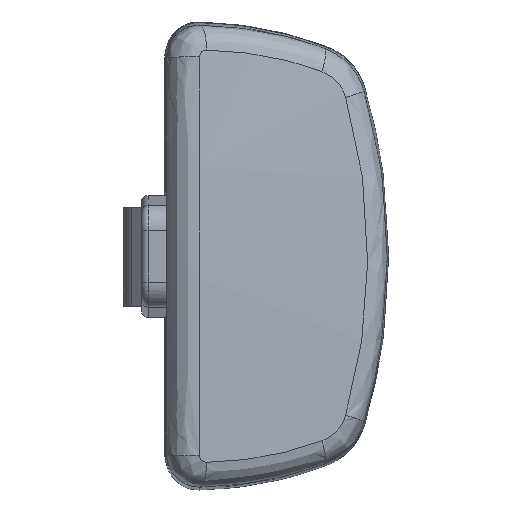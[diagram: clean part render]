
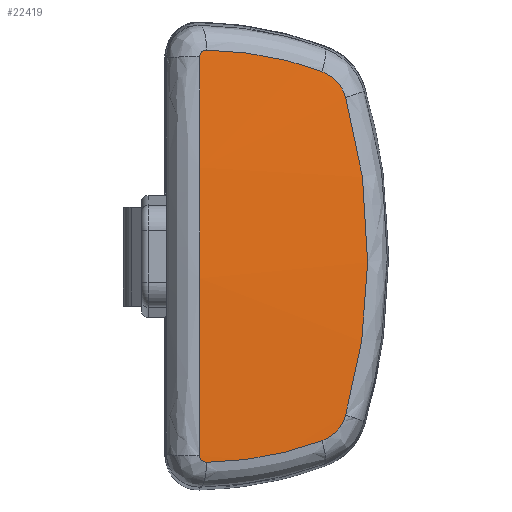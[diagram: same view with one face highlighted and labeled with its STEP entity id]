
A CAD part, top view. The second image highlights one B-rep face of the part: STEP entity #22419.
In plain terms, the highlighted face is a extrusion surface.
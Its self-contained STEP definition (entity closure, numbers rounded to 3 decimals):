
#22398=AXIS2_PLACEMENT_3D('Circle Axis2P3D',#22396,#22397,$) ;
#18948=CARTESIAN_POINT('Vertex',(19.756,-27.986,28.922)) ;
#18952=CARTESIAN_POINT('Control Point',(19.756,-27.986,28.922)) ;
#18953=CARTESIAN_POINT('Control Point',(16.978,-29.033,29.608)) ;
#18954=CARTESIAN_POINT('Control Point',(14.074,-29.881,30.336)) ;
#18955=CARTESIAN_POINT('Control Point',(11.085,-30.515,31.098)) ;
#18956=CARTESIAN_POINT('Control Point',(7.509,-31.007,32.026)) ;
#18957=CARTESIAN_POINT('Control Point',(3.929,-31.2,32.973)) ;
#18958=CARTESIAN_POINT('Control Point',(3.381,-31.223,33.118)) ;
#18959=CARTESIAN_POINT('Control Point',(2.833,-31.239,33.264)) ;
#18960=CARTESIAN_POINT('Control Point',(2.285,-31.248,33.41)) ;
#18961=CARTESIAN_POINT('Vertex',(2.285,-31.248,33.41)) ;
#19412=CARTESIAN_POINT('Vertex',(19.756,27.986,28.922)) ;
#19416=CARTESIAN_POINT('Control Point',(19.756,27.986,28.922)) ;
#19417=CARTESIAN_POINT('Control Point',(20.102,27.856,28.837)) ;
#19418=CARTESIAN_POINT('Control Point',(20.425,27.713,28.758)) ;
#19419=CARTESIAN_POINT('Control Point',(20.726,27.556,28.686)) ;
#19420=CARTESIAN_POINT('Control Point',(21.265,27.23,28.56)) ;
#19421=CARTESIAN_POINT('Control Point',(21.722,26.858,28.458)) ;
#19422=CARTESIAN_POINT('Control Point',(21.927,26.668,28.413)) ;
#19423=CARTESIAN_POINT('Control Point',(22.306,26.262,28.333)) ;
#19424=CARTESIAN_POINT('Control Point',(22.634,25.794,28.27)) ;
#19425=CARTESIAN_POINT('Control Point',(22.786,25.543,28.242)) ;
#19426=CARTESIAN_POINT('Control Point',(23.,25.132,28.205)) ;
#19427=CARTESIAN_POINT('Control Point',(23.187,24.673,28.178)) ;
#19428=CARTESIAN_POINT('Control Point',(23.247,24.511,28.17)) ;
#19429=CARTESIAN_POINT('Control Point',(23.31,24.326,28.162)) ;
#19430=CARTESIAN_POINT('Control Point',(23.369,24.135,28.155)) ;
#19431=CARTESIAN_POINT('Control Point',(23.375,24.116,28.155)) ;
#19432=CARTESIAN_POINT('Control Point',(23.38,24.098,28.154)) ;
#19433=CARTESIAN_POINT('Control Point',(23.386,24.079,28.154)) ;
#19434=CARTESIAN_POINT('Vertex',(23.386,24.079,28.154)) ;
#19541=CARTESIAN_POINT('Vertex',(1.264,30.231,33.747)) ;
#19545=CARTESIAN_POINT('Control Point',(1.264,30.231,33.747)) ;
#19546=CARTESIAN_POINT('Control Point',(1.264,30.367,33.738)) ;
#19547=CARTESIAN_POINT('Control Point',(1.286,30.502,33.724)) ;
#19548=CARTESIAN_POINT('Control Point',(1.331,30.633,33.704)) ;
#19549=CARTESIAN_POINT('Control Point',(1.487,30.92,33.645)) ;
#19550=CARTESIAN_POINT('Control Point',(1.742,31.127,33.563)) ;
#19551=CARTESIAN_POINT('Control Point',(1.915,31.21,33.512)) ;
#19552=CARTESIAN_POINT('Control Point',(2.101,31.25,33.46)) ;
#19553=CARTESIAN_POINT('Control Point',(2.285,31.248,33.41)) ;
#19554=CARTESIAN_POINT('Vertex',(2.285,31.248,33.41)) ;
#19663=CARTESIAN_POINT('Vertex',(23.386,-24.079,28.154)) ;
#19667=CARTESIAN_POINT('Control Point',(23.386,-24.079,28.154)) ;
#19668=CARTESIAN_POINT('Control Point',(23.28,-24.435,28.165)) ;
#19669=CARTESIAN_POINT('Control Point',(23.159,-24.77,28.181)) ;
#19670=CARTESIAN_POINT('Control Point',(23.025,-25.08,28.201)) ;
#19671=CARTESIAN_POINT('Control Point',(22.739,-25.642,28.249)) ;
#19672=CARTESIAN_POINT('Control Point',(22.404,-26.123,28.314)) ;
#19673=CARTESIAN_POINT('Control Point',(22.23,-26.341,28.349)) ;
#19674=CARTESIAN_POINT('Control Point',(21.854,-26.749,28.428)) ;
#19675=CARTESIAN_POINT('Control Point',(21.415,-27.109,28.526)) ;
#19676=CARTESIAN_POINT('Control Point',(21.178,-27.278,28.581)) ;
#19677=CARTESIAN_POINT('Control Point',(20.786,-27.521,28.672)) ;
#19678=CARTESIAN_POINT('Control Point',(20.349,-27.739,28.778)) ;
#19679=CARTESIAN_POINT('Control Point',(20.193,-27.81,28.815)) ;
#19680=CARTESIAN_POINT('Control Point',(20.012,-27.888,28.86)) ;
#19681=CARTESIAN_POINT('Control Point',(19.823,-27.961,28.906)) ;
#19682=CARTESIAN_POINT('Control Point',(19.801,-27.969,28.911)) ;
#19683=CARTESIAN_POINT('Control Point',(19.779,-27.978,28.917)) ;
#19684=CARTESIAN_POINT('Control Point',(19.756,-27.986,28.922)) ;
#20071=CARTESIAN_POINT('Control Point',(2.285,31.248,33.41)) ;
#20072=CARTESIAN_POINT('Control Point',(5.827,31.191,32.465)) ;
#20073=CARTESIAN_POINT('Control Point',(9.395,30.844,31.531)) ;
#20074=CARTESIAN_POINT('Control Point',(12.928,30.198,30.624)) ;
#20075=CARTESIAN_POINT('Control Point',(16.387,29.247,29.754)) ;
#20076=CARTESIAN_POINT('Control Point',(19.674,28.018,28.943)) ;
#20077=CARTESIAN_POINT('Control Point',(19.701,28.007,28.936)) ;
#20078=CARTESIAN_POINT('Control Point',(19.729,27.997,28.929)) ;
#20079=CARTESIAN_POINT('Control Point',(19.756,27.986,28.922)) ;
#21060=CARTESIAN_POINT('Control Point',(23.386,24.079,28.154)) ;
#21061=CARTESIAN_POINT('Control Point',(24.288,21.04,28.058)) ;
#21062=CARTESIAN_POINT('Control Point',(25.053,17.84,27.984)) ;
#21063=CARTESIAN_POINT('Control Point',(25.666,14.516,27.929)) ;
#21064=CARTESIAN_POINT('Control Point',(26.673,6.926,27.842)) ;
#21065=CARTESIAN_POINT('Control Point',(26.872,-0.9,27.827)) ;
#21066=CARTESIAN_POINT('Control Point',(26.729,-5.22,27.838)) ;
#21067=CARTESIAN_POINT('Control Point',(26.129,-11.736,27.887)) ;
#21068=CARTESIAN_POINT('Control Point',(24.97,-17.947,27.994)) ;
#21069=CARTESIAN_POINT('Control Point',(24.503,-20.052,28.039)) ;
#21070=CARTESIAN_POINT('Control Point',(23.974,-22.1,28.092)) ;
#21071=CARTESIAN_POINT('Control Point',(23.386,-24.079,28.154)) ;
#21492=CARTESIAN_POINT('Control Point',(2.285,-31.248,33.41)) ;
#21493=CARTESIAN_POINT('Control Point',(2.239,-31.248,33.423)) ;
#21494=CARTESIAN_POINT('Control Point',(2.193,-31.246,33.435)) ;
#21495=CARTESIAN_POINT('Control Point',(2.146,-31.242,33.448)) ;
#21496=CARTESIAN_POINT('Control Point',(1.935,-31.208,33.507)) ;
#21497=CARTESIAN_POINT('Control Point',(1.736,-31.117,33.566)) ;
#21498=CARTESIAN_POINT('Control Point',(1.596,-31.014,33.61)) ;
#21499=CARTESIAN_POINT('Control Point',(1.411,-30.804,33.672)) ;
#21500=CARTESIAN_POINT('Control Point',(1.305,-30.546,33.716)) ;
#21501=CARTESIAN_POINT('Control Point',(1.278,-30.443,33.73)) ;
#21502=CARTESIAN_POINT('Control Point',(1.264,-30.337,33.74)) ;
#21503=CARTESIAN_POINT('Control Point',(1.264,-30.231,33.747)) ;
#21504=CARTESIAN_POINT('Vertex',(1.264,-30.231,33.747)) ;
#22396=CARTESIAN_POINT('Axis2P3D Location',(0.,0.,-465.)) ;
#22404=CARTESIAN_POINT('Control Point',(1.264,-30.231,33.747)) ;
#22405=CARTESIAN_POINT('Control Point',(1.272,-10.102,34.964)) ;
#22406=CARTESIAN_POINT('Control Point',(1.272,10.102,34.964)) ;
#22407=CARTESIAN_POINT('Control Point',(1.264,30.231,33.747)) ;
#22397=DIRECTION('Axis2P3D Direction',(1.,0.,0.)) ;
#22400=DIRECTION('Vector Direction',(0.966,0.,-0.259)) ;
#22401=VECTOR('Extrusion Surface Vector',#22400,1.) ;
#22410=ORIENTED_EDGE('',*,*,#22408,.F.) ;
#22411=ORIENTED_EDGE('',*,*,#21506,.F.) ;
#22412=ORIENTED_EDGE('',*,*,#18963,.F.) ;
#22413=ORIENTED_EDGE('',*,*,#19685,.F.) ;
#22414=ORIENTED_EDGE('',*,*,#21072,.F.) ;
#22415=ORIENTED_EDGE('',*,*,#19436,.F.) ;
#22416=ORIENTED_EDGE('',*,*,#20080,.F.) ;
#22417=ORIENTED_EDGE('',*,*,#19556,.F.) ;
#22419=ADVANCED_FACE('PartBody',(#22418),#22402,.T.) ;
#18951=B_SPLINE_CURVE_WITH_KNOTS('',5,(#18952,#18953,#18954,#18955,#18956,#18957,#18958,#18959,#18960),.UNSPECIFIED.,.F.,.U.,(6,3,6),(33.764,59.914,64.648),.UNSPECIFIED.) ;
#19415=B_SPLINE_CURVE_WITH_KNOTS('',5,(#19416,#19417,#19418,#19419,#19420,#19421,#19422,#19423,#19424,#19425,#19426,#19427,#19428,#19429,#19430,#19431,#19432,#19433),.UNSPECIFIED.,.F.,.U.,(6,3,3,3,3,6),(9.251,12.648,15.838,19.007,20.638,20.813),.UNSPECIFIED.) ;
#19544=B_SPLINE_CURVE_WITH_KNOTS('',5,(#19545,#19546,#19547,#19548,#19549,#19550,#19551,#19552,#19553),.UNSPECIFIED.,.F.,.U.,(6,3,6),(1.051,3.267,6.338),.UNSPECIFIED.) ;
#19666=B_SPLINE_CURVE_WITH_KNOTS('',5,(#19667,#19668,#19669,#19670,#19671,#19672,#19673,#19674,#19675,#19676,#19677,#19678,#19679,#19680,#19681,#19682,#19683,#19684),.UNSPECIFIED.,.F.,.U.,(6,3,3,3,3,6),(9.711,13.039,16.21,19.396,21.052,21.272),.UNSPECIFIED.) ;
#20070=B_SPLINE_CURVE_WITH_KNOTS('',5,(#20071,#20072,#20073,#20074,#20075,#20076,#20077,#20078,#20079),.UNSPECIFIED.,.F.,.U.,(6,3,6),(21.969,52.595,52.855),.UNSPECIFIED.) ;
#21059=B_SPLINE_CURVE_WITH_KNOTS('',5,(#21060,#21061,#21062,#21063,#21064,#21065,#21066,#21067,#21068,#21069,#21070,#21071),.UNSPECIFIED.,.F.,.U.,(6,3,3,6),(48.979,75.564,108.223,125.539),.UNSPECIFIED.) ;
#21491=B_SPLINE_CURVE_WITH_KNOTS('',5,(#21492,#21493,#21494,#21495,#21496,#21497,#21498,#21499,#21500,#21501,#21502,#21503),.UNSPECIFIED.,.F.,.U.,(6,3,3,6),(14.458,15.227,18.012,19.744),.UNSPECIFIED.) ;
#22403=B_SPLINE_CURVE_WITH_KNOTS('',3,(#22404,#22405,#22406,#22407),.UNSPECIFIED.,.F.,.U.,(4,4),(26.552,111.78),.UNSPECIFIED.) ;
#22399=CIRCLE('generated circle',#22398,500.) ;
#18963=EDGE_CURVE('',#18949,#18962,#18951,.T.) ;
#19436=EDGE_CURVE('',#19413,#19435,#19415,.T.) ;
#19556=EDGE_CURVE('',#19542,#19555,#19544,.T.) ;
#19685=EDGE_CURVE('',#19664,#18949,#19666,.T.) ;
#20080=EDGE_CURVE('',#19555,#19413,#20070,.T.) ;
#21072=EDGE_CURVE('',#19435,#19664,#21059,.T.) ;
#21506=EDGE_CURVE('',#18962,#21505,#21491,.T.) ;
#22408=EDGE_CURVE('',#21505,#19542,#22403,.T.) ;
#22409=EDGE_LOOP('',(#22410,#22411,#22412,#22413,#22414,#22415,#22416,#22417)) ;
#22418=FACE_OUTER_BOUND('',#22409,.T.) ;
#22402=SURFACE_OF_LINEAR_EXTRUSION('generated tabulated cylinder',#22399,#22401) ;
#18949=VERTEX_POINT('',#18948) ;
#18962=VERTEX_POINT('',#18961) ;
#19413=VERTEX_POINT('',#19412) ;
#19435=VERTEX_POINT('',#19434) ;
#19542=VERTEX_POINT('',#19541) ;
#19555=VERTEX_POINT('',#19554) ;
#19664=VERTEX_POINT('',#19663) ;
#21505=VERTEX_POINT('',#21504) ;
